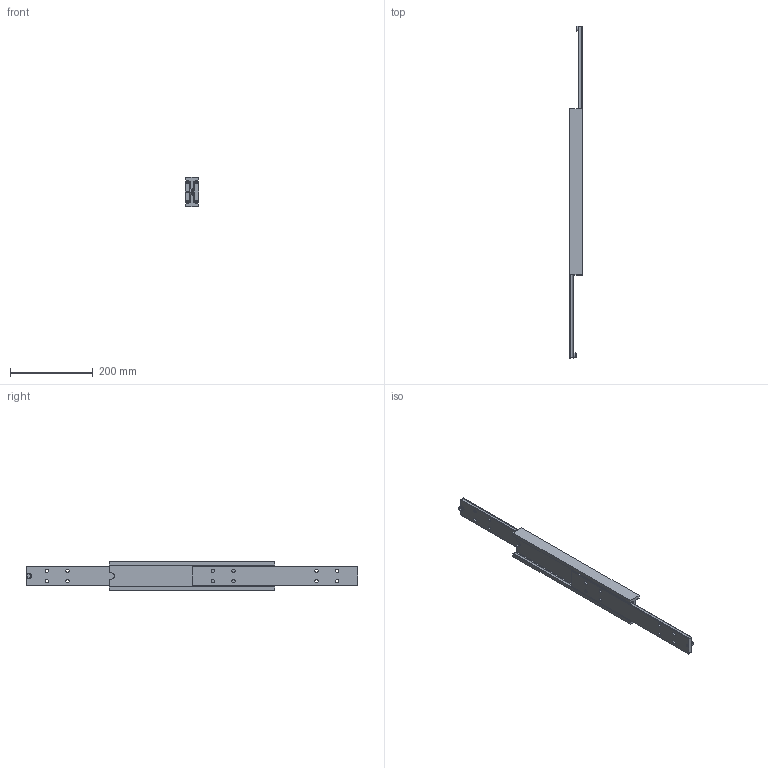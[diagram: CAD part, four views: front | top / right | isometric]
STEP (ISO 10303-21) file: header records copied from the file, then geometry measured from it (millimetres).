
FILE_DESCRIPTION(/* description */ (''),/* implementation_level */ '2;1');
FILE_NAME(/* name */ 'D:\Zeichnungen Schienen Komplett\MX-DTP70\MX-DTP70.040\MX-DTP70.040_ausgefahren.step',/* time_stamp */ '2022-03-03T12:31:21+01:00',/* author */ ('zmile'),/* organization */ (''),/* preprocessor_version */ 'ST-DEVELOPER v16.13',/* originating_system */ 'AutoCAD Mechanical',/* authorisation */ '');
FILE_SCHEMA (('AUTOMOTIVE_DESIGN { 1 0 10303 214 3 1 1 }'));
Length unit declared in the file: millimetre
Products named in the file (1): Product
Bounding box: 32 x 800 x 70 mm (x, y, z)
Volume: 678026.8 mm3; surface area: 242846 mm2
Topology: 25 solids, 27 shells, 146 faces, 428 edges, 296 vertices
Faces by surface type: plane 82, cylinder 30, sphere 20, bspline 8, torus 6
Full cylindrical faces by diameter (mm): 8 x16, 13 x2
Entity records: 11063 total; most frequent: CARTESIAN_POINT 7259, DIRECTION 754, ORIENTED_EDGE 652, EDGE_CURVE 362, VERTEX_POINT 294, AXIS2_PLACEMENT_3D 271, EDGE_LOOP 246, LINE 212
